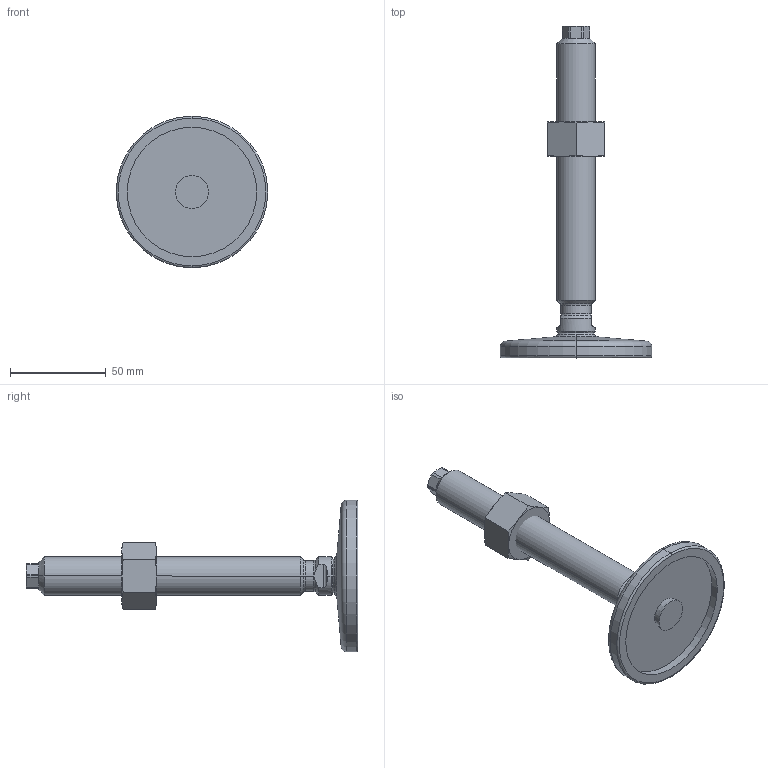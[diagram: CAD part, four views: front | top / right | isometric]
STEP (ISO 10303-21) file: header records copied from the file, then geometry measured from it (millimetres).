
FILE_DESCRIPTION (( 'STEP AP214' ), '1' );
FILE_NAME ('21-80-M20-150-D0-VK.step', '2020-10-02T17:36:07', ( '' ), ( '' ), 'SwSTEP 2.0', 'SolidWorks 2019', '' );
FILE_SCHEMA (( 'AUTOMOTIVE_DESIGN' ));
Length unit declared in the file: millimetre
Products named in the file (4): WB21_Fußteller 21^WB21_V_D0-080-R12-B9 (M20); WB21_Spindel_V^WB21_V_M20-150; WB4032^WB21_V_M20; 21-80-M20-150-D0-VK
Assembly tree (3 placements, depth 2):
  21-80-M20-150-D0-VK
    WB21_Fußteller 21^WB21_V_D0-080-R12-B9 (M20)
    WB21_Spindel_V^WB21_V_M20-150
    WB4032^WB21_V_M20
Bounding box: 79 x 173.02 x 79 mm (x, y, z)
Volume: 89432.5 mm3; surface area: 27582.6 mm2
Topology: 3 solids, 3 shells, 101 faces, 225 edges, 133 vertices
Faces by surface type: cone 33, plane 29, cylinder 25, torus 10, sphere 4
Entity records: 3164 total; most frequent: CARTESIAN_POINT 737, DIRECTION 492, ORIENTED_EDGE 450, EDGE_CURVE 225, AXIS2_PLACEMENT_3D 212, VERTEX_POINT 133, EDGE_LOOP 106, CIRCLE 105
